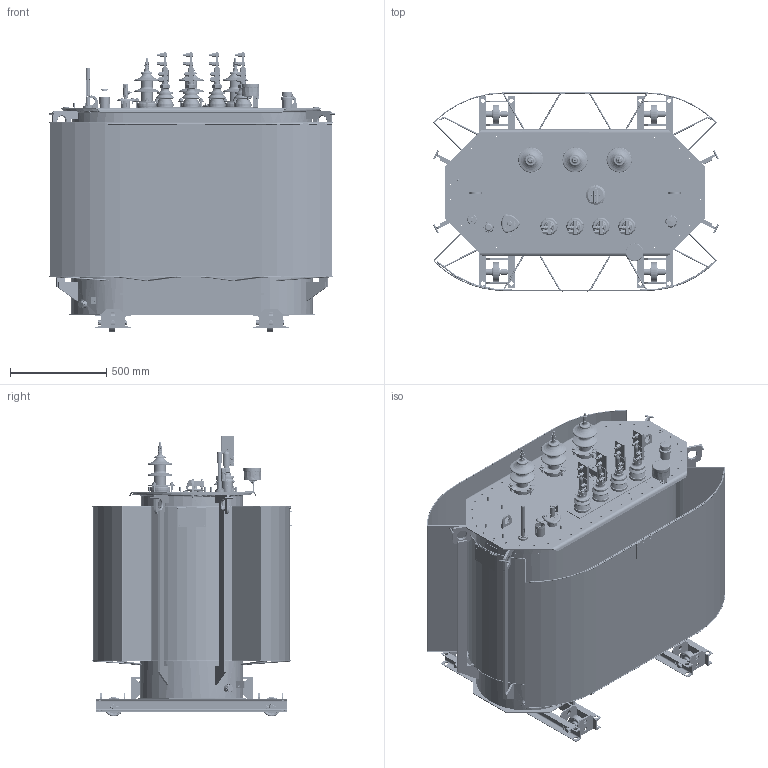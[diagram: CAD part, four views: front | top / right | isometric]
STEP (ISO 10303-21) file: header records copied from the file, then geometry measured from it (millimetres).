
FILE_DESCRIPTION(/* description */ (''),/* implementation_level */ '2;1');
FILE_NAME(/* name */ 'D:\SEARCHWORK\Готовые\Готовые ТМГ\ТМГ32-630-10-УХЛ1\ТМГ32-630-10-УХЛ1.stp',/* time_stamp */ '2022-10-03T11:56:03+03:00',/* author */ ('55505'),/* organization */ (''),/* preprocessor_version */ 'ST-DEVELOPER v18.1',/* originating_system */ 'Autodesk Inventor 2021',/* authorisation */ '');
FILE_SCHEMA (('AUTOMOTIVE_DESIGN { 1 0 10303 214 3 1 1 }'));
Products named in the file (1): ВИЕЛ.672233.072
Bounding box: 1484.86 x 1035.46 x 1458.67 mm (x, y, z)
Volume: 31771342.6 mm3; surface area: 18251372.8 mm2
Topology: 48 solids, 81 shells, 9515 faces, 24848 edges, 15636 vertices
Faces by surface type: plane 4586, cylinder 2052, bspline 1808, cone 513, torus 454, sphere 102
Full cylindrical faces by diameter (mm): 0.5 x1, 1.5 x6, 1.6 x7, 1.827 x2, 2 x6, 2.7 x1, 3 x4, 3.1 x2, 3.15 x3, 3.2 x6, 3.4 x4, 3.5 x1, 3.8 x8, 3.96 x3, 4 x6, 4.3 x2, 4.917 x2, 5 x25, 5.3 x5, 5.5 x13, 5.94 x6, 6 x19, 6.2 x5, 6.4 x6, 6.5 x1, 7 x13, 7.1 x2, 7.159 x1, 7.5 x1, 7.92 x3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
Entity records: 342212 total; most frequent: CARTESIAN_POINT 109287, ORIENTED_EDGE 49132, DIRECTION 42008, EDGE_CURVE 24586, VERTEX_POINT 15660, AXIS2_PLACEMENT_3D 14774, LINE 12460, VECTOR 12460
